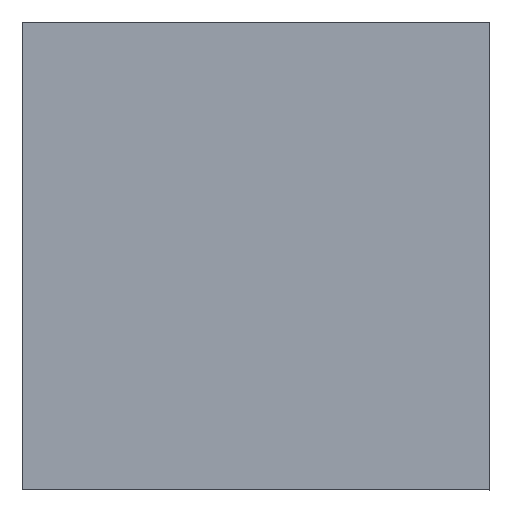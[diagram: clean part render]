
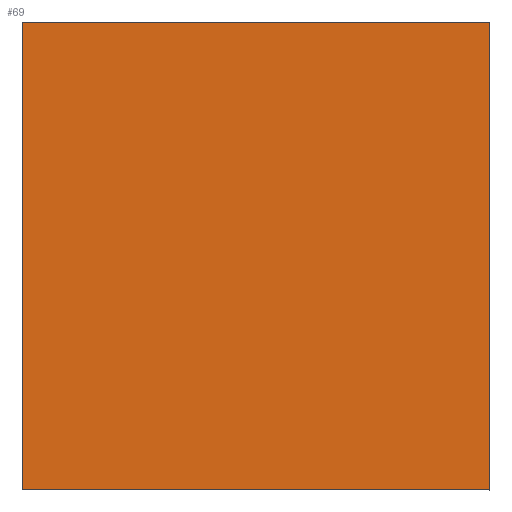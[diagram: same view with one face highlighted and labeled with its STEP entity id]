
A CAD part, top view. The second image highlights one B-rep face of the part: STEP entity #69.
In plain terms, the highlighted planar face has unit normal (0, 0, 1).
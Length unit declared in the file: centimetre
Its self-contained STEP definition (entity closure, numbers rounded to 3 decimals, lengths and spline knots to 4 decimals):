
#5 = FACE_OUTER_BOUND ( 'NONE', #169, .T. ) ;
#17 = VECTOR ( 'NONE', #190, 100. ) ;
#21 = ORIENTED_EDGE ( 'NONE', *, *, #138, .T. ) ;
#30 = VECTOR ( 'NONE', #326, 100. ) ;
#44 = CARTESIAN_POINT ( 'NONE',  ( 1000., 1000., 1000. ) ) ;
#50 = ORIENTED_EDGE ( 'NONE', *, *, #270, .T. ) ;
#51 = VECTOR ( 'NONE', #324, 100. ) ;
#61 = ORIENTED_EDGE ( 'NONE', *, *, #327, .T. ) ;
#68 = LINE ( 'NONE', #357, #30 ) ;
#69 = ADVANCED_FACE ( 'NONE', ( #5 ), #130, .T. ) ;
#71 = CARTESIAN_POINT ( 'NONE',  ( 0., 0., 1000. ) ) ;
#87 = VERTEX_POINT ( 'NONE', #192 ) ;
#100 = DIRECTION ( 'NONE',  ( 1., 0., 0. ) ) ;
#104 = DIRECTION ( 'NONE',  ( 0., 1., 0. ) ) ;
#130 = PLANE ( 'NONE',  #141 ) ;
#134 = LINE ( 'NONE', #44, #278 ) ;
#138 = EDGE_CURVE ( 'NONE', #173, #153, #381, .T. ) ;
#141 = AXIS2_PLACEMENT_3D ( 'NONE', #71, #356, #100 ) ;
#153 = VERTEX_POINT ( 'NONE', #294 ) ;
#169 = EDGE_LOOP ( 'NONE', ( #61, #170, #50, #21 ) ) ;
#170 = ORIENTED_EDGE ( 'NONE', *, *, #223, .T. ) ;
#173 = VERTEX_POINT ( 'NONE', #267 ) ;
#190 = DIRECTION ( 'NONE',  ( 1., 0., 0. ) ) ;
#192 = CARTESIAN_POINT ( 'NONE',  ( 0., 0., 1000. ) ) ;
#220 = CARTESIAN_POINT ( 'NONE',  ( 1000., 0., 1000. ) ) ;
#223 = EDGE_CURVE ( 'NONE', #87, #275, #291, .T. ) ;
#227 = CARTESIAN_POINT ( 'NONE',  ( 0., 1000., 1000. ) ) ;
#252 = CARTESIAN_POINT ( 'NONE',  ( 0., 0., 1000. ) ) ;
#267 = CARTESIAN_POINT ( 'NONE',  ( 1000., 1000., 1000. ) ) ;
#270 = EDGE_CURVE ( 'NONE', #275, #173, #134, .T. ) ;
#275 = VERTEX_POINT ( 'NONE', #220 ) ;
#278 = VECTOR ( 'NONE', #104, 100. ) ;
#291 = LINE ( 'NONE', #252, #17 ) ;
#294 = CARTESIAN_POINT ( 'NONE',  ( 0., 1000., 1000. ) ) ;
#324 = DIRECTION ( 'NONE',  ( -1., 0., 0. ) ) ;
#326 = DIRECTION ( 'NONE',  ( 0., -1., 0. ) ) ;
#327 = EDGE_CURVE ( 'NONE', #153, #87, #68, .T. ) ;
#356 = DIRECTION ( 'NONE',  ( 0., 0., 1. ) ) ;
#357 = CARTESIAN_POINT ( 'NONE',  ( 0., 1000., 1000. ) ) ;
#381 = LINE ( 'NONE', #227, #51 ) ;
